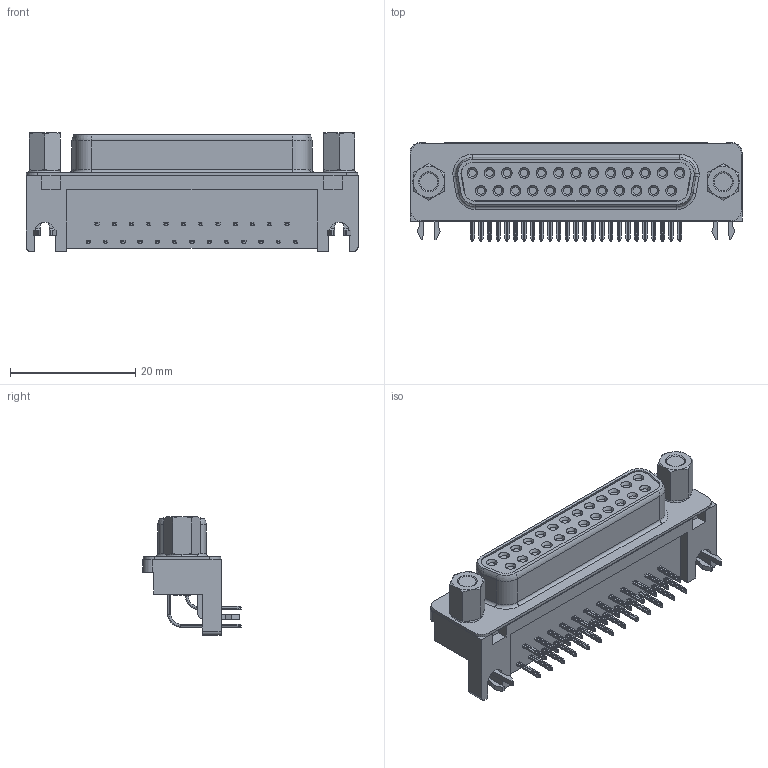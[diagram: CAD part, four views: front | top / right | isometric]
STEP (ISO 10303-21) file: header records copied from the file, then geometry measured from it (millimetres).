
FILE_DESCRIPTION (( 'STEP AP203' ), '1' );
FILE_NAME ('17LE-13250-27(D3CH)-FA.STEP', '2022-02-01T09:53:25', ( '' ), ( '' ), 'SwSTEP 2.0', 'SolidWorks 2018', '' );
FILE_SCHEMA (( 'CONFIG_CONTROL_DESIGN' ));
Length unit declared in the file: millimetre
Products named in the file (1): 17LE-13250-27(D3CH)-FA
Bounding box: 53.04 x 15.7 x 19 mm (x, y, z)
Volume: 5854.7 mm3; surface area: 6099.4 mm2
Topology: 1 solids, 5 shells, 1486 faces, 3955 edges, 2530 vertices
Faces by surface type: plane 728, cylinder 529, torus 158, cone 71
Entity records: 47124 total; most frequent: CARTESIAN_POINT 9286, DIRECTION 8055, ORIENTED_EDGE 7910, EDGE_CURVE 3955, AXIS2_PLACEMENT_3D 2819, VERTEX_POINT 2530, VECTOR 2417, LINE 2417
